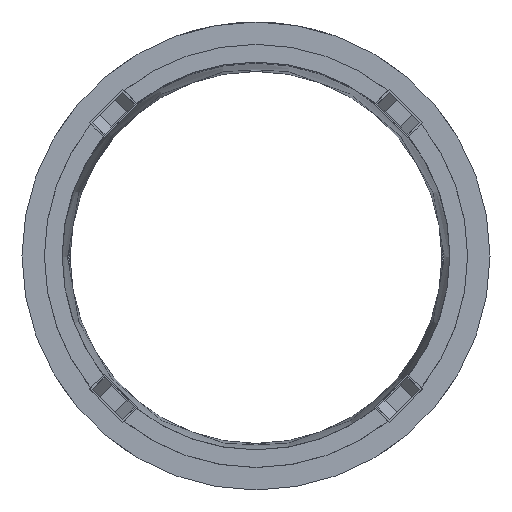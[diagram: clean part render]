
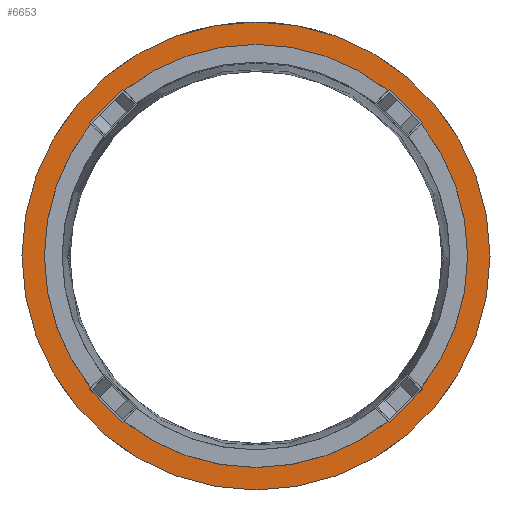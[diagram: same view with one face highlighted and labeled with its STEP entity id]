
A CAD part, top view. The second image highlights one B-rep face of the part: STEP entity #6653.
In plain terms, the highlighted planar face has unit normal (0, 0, 1).
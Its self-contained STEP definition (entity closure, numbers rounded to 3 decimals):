
#5802 = VERTEX_POINT('',#5803);
#5803 = CARTESIAN_POINT('',(37.,0.,144.));
#5809 = EDGE_CURVE('',#5802,#5802,#5810,.T.);
#5810 = CIRCLE('',#5811,37.);
#5811 = AXIS2_PLACEMENT_3D('',#5812,#5813,#5814);
#5812 = CARTESIAN_POINT('',(0.,0.,144.));
#5813 = DIRECTION('',(0.,0.,1.));
#5814 = DIRECTION('',(1.,0.,0.));
#6653 = ADVANCED_FACE('',(#6654,#6657),#6668,.T.);
#6654 = FACE_BOUND('',#6655,.T.);
#6655 = EDGE_LOOP('',(#6656));
#6656 = ORIENTED_EDGE('',*,*,#5809,.T.);
#6657 = FACE_BOUND('',#6658,.T.);
#6658 = EDGE_LOOP('',(#6659));
#6659 = ORIENTED_EDGE('',*,*,#6660,.F.);
#6660 = EDGE_CURVE('',#6661,#6661,#6663,.T.);
#6661 = VERTEX_POINT('',#6662);
#6662 = CARTESIAN_POINT('',(33.45,0.,144.));
#6663 = CIRCLE('',#6664,33.45);
#6664 = AXIS2_PLACEMENT_3D('',#6665,#6666,#6667);
#6665 = CARTESIAN_POINT('',(0.,0.,144.));
#6666 = DIRECTION('',(0.,0.,1.));
#6667 = DIRECTION('',(1.,0.,0.));
#6668 = PLANE('',#6669);
#6669 = AXIS2_PLACEMENT_3D('',#6670,#6671,#6672);
#6670 = CARTESIAN_POINT('',(0.,0.,144.));
#6671 = DIRECTION('',(0.,0.,1.));
#6672 = DIRECTION('',(1.,0.,0.));
